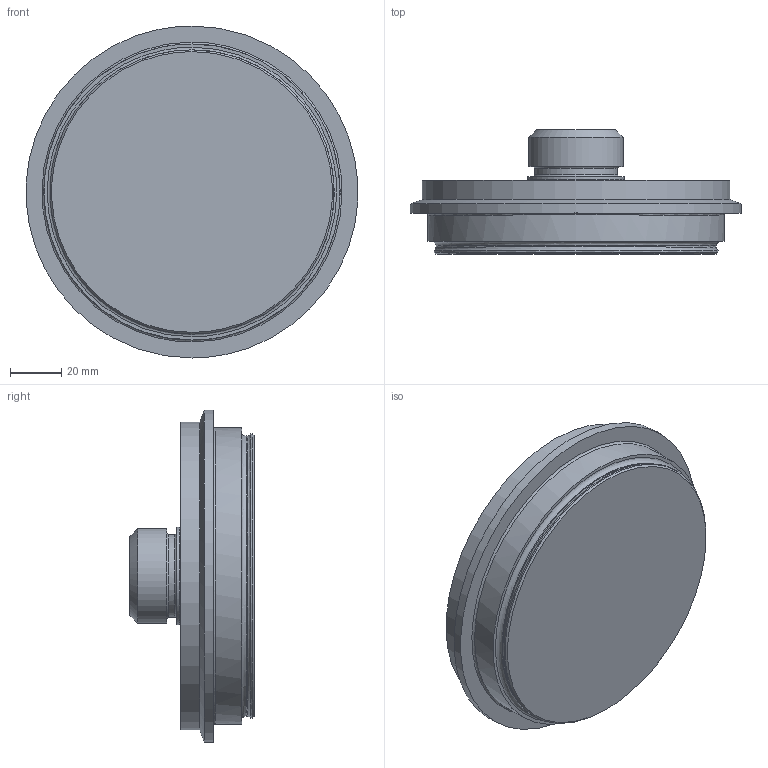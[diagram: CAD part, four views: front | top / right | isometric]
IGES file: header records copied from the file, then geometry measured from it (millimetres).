
Global section: file name: 102410 4; native system: Autodesk Inventor 2020; preprocessor: unknown; author: H7M44K; date: 20210423.111900; units: inch
Bounding box: 129.92 x 48.77 x 130.18 mm (x, y, z)
Volume: 339714.7 mm3; surface area: 39085.6 mm2
Topology: 1 solids, 1 shells, 24 faces, 68 edges, 51 vertices
Faces by surface type: bspline 24
